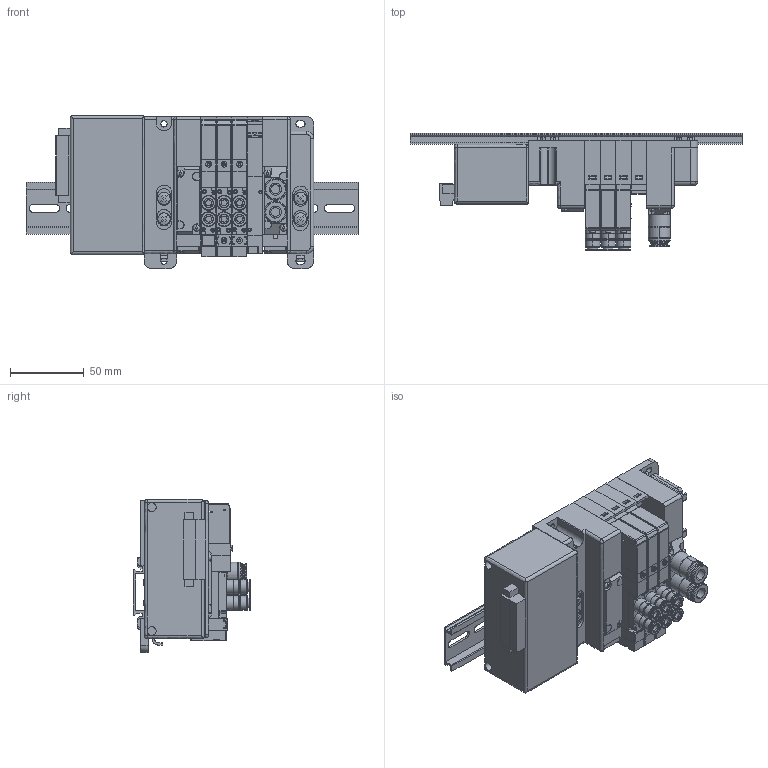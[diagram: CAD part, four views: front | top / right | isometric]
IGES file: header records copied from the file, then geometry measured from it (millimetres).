
Start section: ------------------------------------------------------------------------
Global section: file name: D:\ICADMX\tmp\trans3d_spg\CVICAD02.2536.F10M4XS-JR-B1-DN_15221.igs; native system: spGate; preprocessor: ver12.6.6; author: Unknown; organization: Unknown; date: 200901.145843; units: millimetre
Bounding box: 225 x 79.5 x 103.7 mm (x, y, z)
Volume: 661868.4 mm3; surface area: 178791.5 mm2
Topology: 38 solids, 38 shells, 3516 faces, 9511 edges, 6625 vertices
Faces by surface type: bspline 3516
